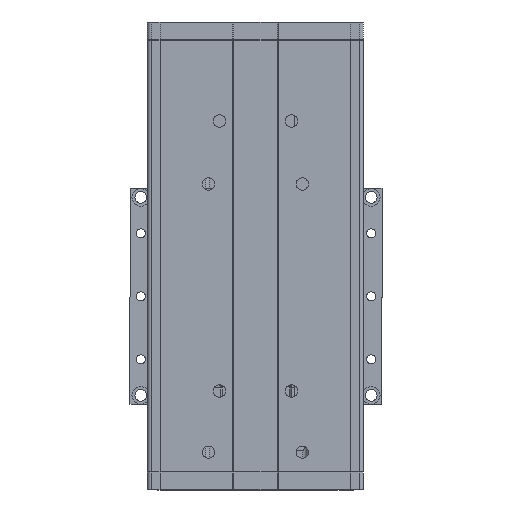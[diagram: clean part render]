
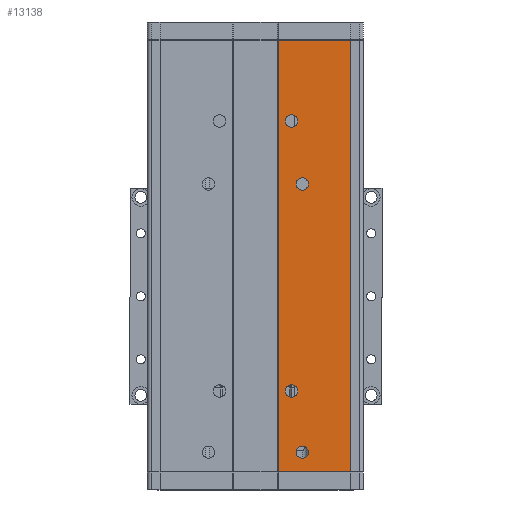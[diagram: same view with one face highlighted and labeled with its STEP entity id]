
A CAD part, front view. The second image highlights one B-rep face of the part: STEP entity #13138.
In plain terms, the highlighted planar face has unit normal (0, -1, 0).
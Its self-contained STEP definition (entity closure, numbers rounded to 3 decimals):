
#388 = AXIS2_PLACEMENT_3D ( 'NONE', #50437, #119582, #60301 ) ;
#1271 = EDGE_LOOP ( 'NONE', ( #23420, #78791 ) ) ;
#1324 = CIRCLE ( 'NONE', #125619, 3.4 ) ;
#1871 = ORIENTED_EDGE ( 'NONE', *, *, #47182, .T. ) ;
#2111 = CIRCLE ( 'NONE', #18478, 3.4 ) ;
#2181 = DIRECTION ( 'NONE',  ( 0., 1., 0. ) ) ;
#5091 = DIRECTION ( 'NONE',  ( 1., 0., 0. ) ) ;
#5308 = FACE_BOUND ( 'NONE', #63751, .T. ) ;
#5544 = DIRECTION ( 'NONE',  ( 0., 0., 1. ) ) ;
#5756 = VERTEX_POINT ( 'NONE', #126961 ) ;
#9954 = EDGE_CURVE ( 'NONE', #87594, #39565, #103094, .T. ) ;
#10517 = AXIS2_PLACEMENT_3D ( 'NONE', #123929, #64629, #5544 ) ;
#13138 = ADVANCED_FACE ( 'NONE', ( #107212, #5308, #34614, #31473, #93330 ), #107532, .F. ) ;
#13786 = CARTESIAN_POINT ( 'NONE',  ( 32.31, -28.09, 198.5 ) ) ;
#13816 = DIRECTION ( 'NONE',  ( 0., -1., 0. ) ) ;
#14548 = ORIENTED_EDGE ( 'NONE', *, *, #78500, .F. ) ;
#15026 = EDGE_CURVE ( 'NONE', #38352, #115801, #2111, .T. ) ;
#15834 = CARTESIAN_POINT ( 'NONE',  ( 32.31, -28.09, 41.5 ) ) ;
#16429 = CARTESIAN_POINT ( 'NONE',  ( 38.31, -28.09, 7.6 ) ) ;
#16588 = ORIENTED_EDGE ( 'NONE', *, *, #70228, .T. ) ;
#18478 = AXIS2_PLACEMENT_3D ( 'NONE', #53851, #123033, #63761 ) ;
#18913 = VERTEX_POINT ( 'NONE', #13786 ) ;
#21201 = DIRECTION ( 'NONE',  ( 0., 0., 1. ) ) ;
#21607 = EDGE_CURVE ( 'NONE', #115801, #38352, #35447, .T. ) ;
#23420 = ORIENTED_EDGE ( 'NONE', *, *, #53088, .T. ) ;
#24415 = CARTESIAN_POINT ( 'NONE',  ( 65.31, -28.09, 240. ) ) ;
#26898 = VECTOR ( 'NONE', #74660, 1000. ) ;
#28904 = CARTESIAN_POINT ( 'NONE',  ( 25.31, -28.09, 240. ) ) ;
#30355 = EDGE_LOOP ( 'NONE', ( #87898, #36516 ) ) ;
#30889 = AXIS2_PLACEMENT_3D ( 'NONE', #72928, #13816, #82871 ) ;
#31473 = FACE_BOUND ( 'NONE', #30355, .T. ) ;
#31654 = AXIS2_PLACEMENT_3D ( 'NONE', #108653, #49518, #118633 ) ;
#32799 = AXIS2_PLACEMENT_3D ( 'NONE', #97992, #38861, #107903 ) ;
#32987 = VECTOR ( 'NONE', #71345, 1000. ) ;
#34614 = FACE_BOUND ( 'NONE', #66584, .T. ) ;
#35447 = CIRCLE ( 'NONE', #10517, 3.4 ) ;
#36126 = LINE ( 'NONE', #41587, #32987 ) ;
#36516 = ORIENTED_EDGE ( 'NONE', *, *, #106542, .F. ) ;
#38112 = VECTOR ( 'NONE', #73249, 1000. ) ;
#38352 = VERTEX_POINT ( 'NONE', #59415 ) ;
#38861 = DIRECTION ( 'NONE',  ( 0., 1., 0. ) ) ;
#39565 = VERTEX_POINT ( 'NONE', #81473 ) ;
#41587 = CARTESIAN_POINT ( 'NONE',  ( 25.31, -28.09, 240. ) ) ;
#42085 = ORIENTED_EDGE ( 'NONE', *, *, #21607, .F. ) ;
#47124 = CARTESIAN_POINT ( 'NONE',  ( 32.31, -28.09, 191.5 ) ) ;
#47156 = VERTEX_POINT ( 'NONE', #127757 ) ;
#47182 = EDGE_CURVE ( 'NONE', #98623, #101141, #126601, .T. ) ;
#48430 = EDGE_CURVE ( 'NONE', #5756, #107339, #56750, .T. ) ;
#49518 = DIRECTION ( 'NONE',  ( 0., 1., 0. ) ) ;
#50437 = CARTESIAN_POINT ( 'NONE',  ( 32.31, -28.09, 45. ) ) ;
#50599 = VECTOR ( 'NONE', #5091, 1000. ) ;
#52996 = ORIENTED_EDGE ( 'NONE', *, *, #63211, .T. ) ;
#53088 = EDGE_CURVE ( 'NONE', #18913, #86066, #73148, .T. ) ;
#53851 = CARTESIAN_POINT ( 'NONE',  ( 38.31, -28.09, 11. ) ) ;
#56028 = CARTESIAN_POINT ( 'NONE',  ( 38.31, -28.09, 160. ) ) ;
#56750 = CIRCLE ( 'NONE', #30889, 3.4 ) ;
#59415 = CARTESIAN_POINT ( 'NONE',  ( 38.31, -28.09, 14.4 ) ) ;
#60301 = DIRECTION ( 'NONE',  ( 0., 0., 1. ) ) ;
#60952 = AXIS2_PLACEMENT_3D ( 'NONE', #70406, #80348, #21201 ) ;
#61246 = CARTESIAN_POINT ( 'NONE',  ( 32.31, -28.09, 195. ) ) ;
#63211 = EDGE_CURVE ( 'NONE', #101141, #98623, #68219, .T. ) ;
#63318 = CARTESIAN_POINT ( 'NONE',  ( 65.31, -28.09, 240. ) ) ;
#63751 = EDGE_LOOP ( 'NONE', ( #1871, #52996 ) ) ;
#63761 = DIRECTION ( 'NONE',  ( 0., 0., 1. ) ) ;
#64629 = DIRECTION ( 'NONE',  ( 0., -1., 0. ) ) ;
#64707 = CARTESIAN_POINT ( 'NONE',  ( 65.31, -28.09, 0. ) ) ;
#65908 = CARTESIAN_POINT ( 'NONE',  ( 32.31, -28.09, 48.5 ) ) ;
#65914 = DIRECTION ( 'NONE',  ( 0., 0., 1. ) ) ;
#66469 = VERTEX_POINT ( 'NONE', #114151 ) ;
#66584 = EDGE_LOOP ( 'NONE', ( #42085, #85361 ) ) ;
#68219 = CIRCLE ( 'NONE', #388, 3.5 ) ;
#70228 = EDGE_CURVE ( 'NONE', #66469, #47156, #105754, .T. ) ;
#70406 = CARTESIAN_POINT ( 'NONE',  ( 65.31, -28.09, 240. ) ) ;
#71174 = DIRECTION ( 'NONE',  ( 0., 0., 1. ) ) ;
#71345 = DIRECTION ( 'NONE',  ( 0., 0., -1. ) ) ;
#72928 = CARTESIAN_POINT ( 'NONE',  ( 38.31, -28.09, 160. ) ) ;
#73148 = CIRCLE ( 'NONE', #32799, 3.5 ) ;
#73249 = DIRECTION ( 'NONE',  ( 0., 0., -1. ) ) ;
#74651 = CIRCLE ( 'NONE', #120860, 3.5 ) ;
#74660 = DIRECTION ( 'NONE',  ( 1., 0., 0. ) ) ;
#78500 = EDGE_CURVE ( 'NONE', #39565, #47156, #116985, .T. ) ;
#78791 = ORIENTED_EDGE ( 'NONE', *, *, #111287, .T. ) ;
#80348 = DIRECTION ( 'NONE',  ( 0., 1., 0. ) ) ;
#81473 = CARTESIAN_POINT ( 'NONE',  ( 65.31, -28.09, 240. ) ) ;
#82871 = DIRECTION ( 'NONE',  ( 0., 0., 1. ) ) ;
#85361 = ORIENTED_EDGE ( 'NONE', *, *, #15026, .F. ) ;
#86066 = VERTEX_POINT ( 'NONE', #47124 ) ;
#87594 = VERTEX_POINT ( 'NONE', #28904 ) ;
#87898 = ORIENTED_EDGE ( 'NONE', *, *, #48430, .F. ) ;
#92487 = CARTESIAN_POINT ( 'NONE',  ( 38.31, -28.09, 163.4 ) ) ;
#93330 = FACE_OUTER_BOUND ( 'NONE', #110189, .T. ) ;
#95448 = ORIENTED_EDGE ( 'NONE', *, *, #110730, .T. ) ;
#97992 = CARTESIAN_POINT ( 'NONE',  ( 32.31, -28.09, 195. ) ) ;
#98623 = VERTEX_POINT ( 'NONE', #65908 ) ;
#101141 = VERTEX_POINT ( 'NONE', #15834 ) ;
#103094 = LINE ( 'NONE', #24415, #50599 ) ;
#105754 = LINE ( 'NONE', #64707, #26898 ) ;
#106542 = EDGE_CURVE ( 'NONE', #107339, #5756, #1324, .T. ) ;
#107212 = FACE_BOUND ( 'NONE', #1271, .T. ) ;
#107339 = VERTEX_POINT ( 'NONE', #92487 ) ;
#107532 = PLANE ( 'NONE',  #60952 ) ;
#107903 = DIRECTION ( 'NONE',  ( 0., 0., 1. ) ) ;
#108653 = CARTESIAN_POINT ( 'NONE',  ( 32.31, -28.09, 45. ) ) ;
#110189 = EDGE_LOOP ( 'NONE', ( #16588, #14548, #111994, #95448 ) ) ;
#110730 = EDGE_CURVE ( 'NONE', #87594, #66469, #36126, .T. ) ;
#111287 = EDGE_CURVE ( 'NONE', #86066, #18913, #74651, .T. ) ;
#111994 = ORIENTED_EDGE ( 'NONE', *, *, #9954, .F. ) ;
#114151 = CARTESIAN_POINT ( 'NONE',  ( 25.31, -28.09, 0. ) ) ;
#115801 = VERTEX_POINT ( 'NONE', #16429 ) ;
#116985 = LINE ( 'NONE', #63318, #38112 ) ;
#118633 = DIRECTION ( 'NONE',  ( 0., 0., 1. ) ) ;
#119582 = DIRECTION ( 'NONE',  ( 0., 1., 0. ) ) ;
#120860 = AXIS2_PLACEMENT_3D ( 'NONE', #61246, #2181, #71174 ) ;
#123033 = DIRECTION ( 'NONE',  ( 0., -1., 0. ) ) ;
#123929 = CARTESIAN_POINT ( 'NONE',  ( 38.31, -28.09, 11. ) ) ;
#125207 = DIRECTION ( 'NONE',  ( 0., -1., 0. ) ) ;
#125619 = AXIS2_PLACEMENT_3D ( 'NONE', #56028, #125207, #65914 ) ;
#126601 = CIRCLE ( 'NONE', #31654, 3.5 ) ;
#126961 = CARTESIAN_POINT ( 'NONE',  ( 38.31, -28.09, 156.6 ) ) ;
#127757 = CARTESIAN_POINT ( 'NONE',  ( 65.31, -28.09, 0. ) ) ;
